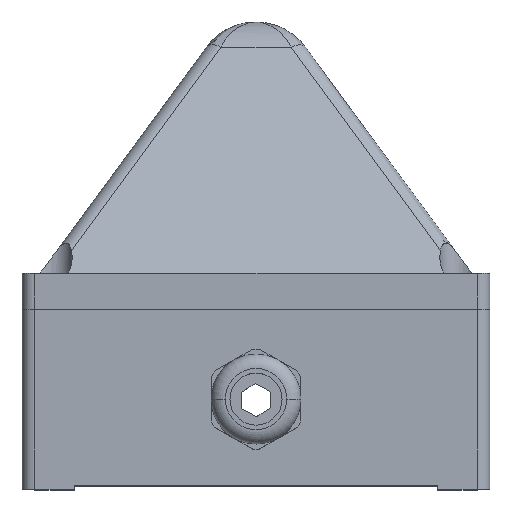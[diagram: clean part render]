
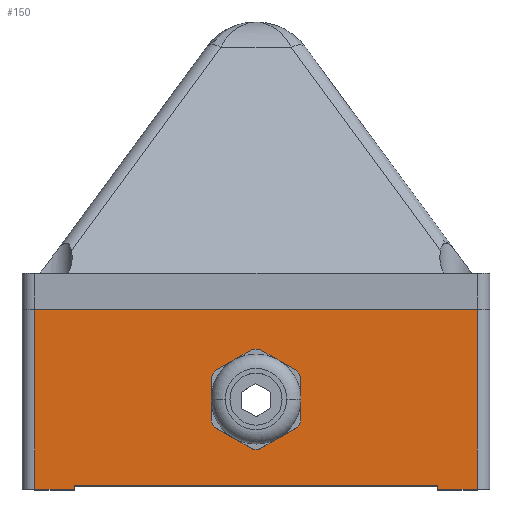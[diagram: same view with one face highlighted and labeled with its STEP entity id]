
A CAD part, top view. The second image highlights one B-rep face of the part: STEP entity #150.
In plain terms, the highlighted planar face has unit normal (0, 0, 1).
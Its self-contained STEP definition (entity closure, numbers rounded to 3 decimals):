
#146 = EDGE_CURVE ( 'NONE', #3046, #3173, #3446, .T. ) ;
#148 = EDGE_LOOP ( 'NONE', ( #442, #523 ) ) ;
#150 = ADVANCED_FACE ( 'NONE', ( #3444, #3449 ), #3289, .F. ) ;
#308 = ORIENTED_EDGE ( 'NONE', *, *, #329, .T. ) ;
#310 = EDGE_CURVE ( 'NONE', #330, #331, #3717, .T. ) ;
#312 = ORIENTED_EDGE ( 'NONE', *, *, #3068, .F. ) ;
#313 = ORIENTED_EDGE ( 'NONE', *, *, #3052, .T. ) ;
#314 = EDGE_CURVE ( 'NONE', #315, #3075, #3764, .T. ) ;
#315 = VERTEX_POINT ( 'NONE', #3723 ) ;
#327 = ORIENTED_EDGE ( 'NONE', *, *, #146, .T. ) ;
#328 = EDGE_CURVE ( 'NONE', #3050, #3020, #4088, .T. ) ;
#329 = EDGE_CURVE ( 'NONE', #536, #315, #4085, .T. ) ;
#330 = VERTEX_POINT ( 'NONE', #4084 ) ;
#331 = VERTEX_POINT ( 'NONE', #4091 ) ;
#335 = ORIENTED_EDGE ( 'NONE', *, *, #314, .T. ) ;
#336 = ORIENTED_EDGE ( 'NONE', *, *, #411, .F. ) ;
#340 = ORIENTED_EDGE ( 'NONE', *, *, #328, .F. ) ;
#341 = EDGE_CURVE ( 'NONE', #331, #330, #4080, .T. ) ;
#411 = EDGE_CURVE ( 'NONE', #536, #3167, #4120, .T. ) ;
#442 = ORIENTED_EDGE ( 'NONE', *, *, #341, .F. ) ;
#482 = ORIENTED_EDGE ( 'NONE', *, *, #3177, .F. ) ;
#522 = EDGE_LOOP ( 'NONE', ( #327, #482, #336, #308, #335, #312, #340, #313 ) ) ;
#523 = ORIENTED_EDGE ( 'NONE', *, *, #310, .F. ) ;
#536 = VERTEX_POINT ( 'NONE', #4514 ) ;
#3020 = VERTEX_POINT ( 'NONE', #11379 ) ;
#3046 = VERTEX_POINT ( 'NONE', #11522 ) ;
#3050 = VERTEX_POINT ( 'NONE', #11414 ) ;
#3052 = EDGE_CURVE ( 'NONE', #3050, #3046, #11471, .T. ) ;
#3068 = EDGE_CURVE ( 'NONE', #3020, #3075, #11404, .T. ) ;
#3075 = VERTEX_POINT ( 'NONE', #11557 ) ;
#3167 = VERTEX_POINT ( 'NONE', #11910 ) ;
#3173 = VERTEX_POINT ( 'NONE', #11818 ) ;
#3177 = EDGE_CURVE ( 'NONE', #3167, #3173, #12016, .T. ) ;
#3289 = PLANE ( 'NONE',  #3413 ) ;
#3363 = DIRECTION ( 'NONE',  ( -1., 0., 0. ) ) ;
#3364 = DIRECTION ( 'NONE',  ( 0., 0., -1. ) ) ;
#3365 = CARTESIAN_POINT ( 'NONE',  ( -61.5, 50., 65. ) ) ;
#3405 = DIRECTION ( 'NONE',  ( 1., 0., 0. ) ) ;
#3411 = VECTOR ( 'NONE', #3405, 1000. ) ;
#3412 = CARTESIAN_POINT ( 'NONE',  ( -61.5, 0., 65. ) ) ;
#3413 = AXIS2_PLACEMENT_3D ( 'NONE', #3365, #3364, #3363 ) ;
#3444 = FACE_BOUND ( 'NONE', #148, .T. ) ;
#3446 = LINE ( 'NONE', #3412, #3411 ) ;
#3449 = FACE_OUTER_BOUND ( 'NONE', #522, .T. ) ;
#3717 = CIRCLE ( 'NONE', #3719, 10.25 ) ;
#3719 = AXIS2_PLACEMENT_3D ( 'NONE', #3762, #3761, #3760 ) ;
#3723 = CARTESIAN_POINT ( 'NONE',  ( 50.5, 0., 65. ) ) ;
#3755 = DIRECTION ( 'NONE',  ( 1., 0., 0. ) ) ;
#3760 = DIRECTION ( 'NONE',  ( 1., 0., 0. ) ) ;
#3761 = DIRECTION ( 'NONE',  ( 0., 0., 1. ) ) ;
#3762 = CARTESIAN_POINT ( 'NONE',  ( 0., 25., 65. ) ) ;
#3763 = VECTOR ( 'NONE', #3755, 1000. ) ;
#3764 = LINE ( 'NONE', #3797, #3763 ) ;
#3797 = CARTESIAN_POINT ( 'NONE',  ( -61.5, 0., 65. ) ) ;
#4006 = DIRECTION ( 'NONE',  ( 1., 0., 0. ) ) ;
#4007 = DIRECTION ( 'NONE',  ( 0., 0., 1. ) ) ;
#4008 = CARTESIAN_POINT ( 'NONE',  ( 0., 25., 65. ) ) ;
#4014 = AXIS2_PLACEMENT_3D ( 'NONE', #4008, #4007, #4006 ) ;
#4080 = CIRCLE ( 'NONE', #4014, 10.25 ) ;
#4081 = DIRECTION ( 'NONE',  ( 0., -1., 0. ) ) ;
#4082 = VECTOR ( 'NONE', #4081, 1000. ) ;
#4083 = CARTESIAN_POINT ( 'NONE',  ( 50.5, 1., 65. ) ) ;
#4084 = CARTESIAN_POINT ( 'NONE',  ( -10.25, 25., 65. ) ) ;
#4085 = LINE ( 'NONE', #4083, #4082 ) ;
#4086 = DIRECTION ( 'NONE',  ( 1., 0., 0. ) ) ;
#4087 = VECTOR ( 'NONE', #4086, 1000. ) ;
#4088 = LINE ( 'NONE', #4089, #4087 ) ;
#4089 = CARTESIAN_POINT ( 'NONE',  ( -61.5, 50., 65. ) ) ;
#4091 = CARTESIAN_POINT ( 'NONE',  ( 10.25, 25., 65. ) ) ;
#4118 = DIRECTION ( 'NONE',  ( -1., 0., 0. ) ) ;
#4119 = VECTOR ( 'NONE', #4118, 1000. ) ;
#4120 = LINE ( 'NONE', #4126, #4119 ) ;
#4126 = CARTESIAN_POINT ( 'NONE',  ( -50.5, 1., 65. ) ) ;
#4514 = CARTESIAN_POINT ( 'NONE',  ( 50.5, 1., 65. ) ) ;
#11379 = CARTESIAN_POINT ( 'NONE',  ( 61.5, 50., 65. ) ) ;
#11401 = DIRECTION ( 'NONE',  ( 0., -1., 0. ) ) ;
#11402 = VECTOR ( 'NONE', #11401, 1000. ) ;
#11403 = CARTESIAN_POINT ( 'NONE',  ( 61.5, 50., 65. ) ) ;
#11404 = LINE ( 'NONE', #11403, #11402 ) ;
#11414 = CARTESIAN_POINT ( 'NONE',  ( -61.5, 50., 65. ) ) ;
#11468 = DIRECTION ( 'NONE',  ( 0., -1., 0. ) ) ;
#11469 = VECTOR ( 'NONE', #11468, 1000. ) ;
#11470 = CARTESIAN_POINT ( 'NONE',  ( -61.5, 50., 65. ) ) ;
#11471 = LINE ( 'NONE', #11470, #11469 ) ;
#11522 = CARTESIAN_POINT ( 'NONE',  ( -61.5, 0., 65. ) ) ;
#11557 = CARTESIAN_POINT ( 'NONE',  ( 61.5, 0., 65. ) ) ;
#11818 = CARTESIAN_POINT ( 'NONE',  ( -50.5, 0., 65. ) ) ;
#11910 = CARTESIAN_POINT ( 'NONE',  ( -50.5, 1., 65. ) ) ;
#12013 = DIRECTION ( 'NONE',  ( 0., -1., 0. ) ) ;
#12014 = VECTOR ( 'NONE', #12013, 1000. ) ;
#12015 = CARTESIAN_POINT ( 'NONE',  ( -50.5, 1., 65. ) ) ;
#12016 = LINE ( 'NONE', #12015, #12014 ) ;
